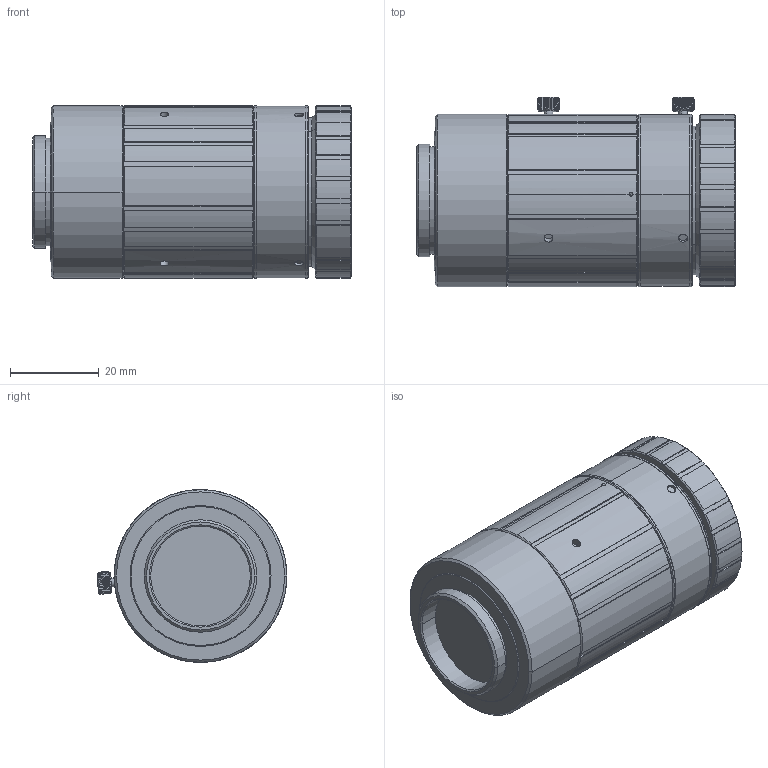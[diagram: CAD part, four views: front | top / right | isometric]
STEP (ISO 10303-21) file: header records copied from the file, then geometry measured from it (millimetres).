
FILE_DESCRIPTION(('CoCreate Modeling STEP Export'),'2;1');
FILE_NAME('CF50ZA-1S_outline.stp','2018-12-06T20:32:12',(''),(''),'CoCreate Modeling STEP processor for AP214 (Solid Model)','CoCreate Modeling 17.0 01-Apr-2010 (C) Parametric Technology GmbH','');
FILE_SCHEMA(('AUTOMOTIVE_DESIGN { 1 0 10303 214 1 1 1 1 }'));
Length unit declared in the file: millimetre
Products named in the file (2): CF50ZA-1S
Assembly tree (1 placements, depth 2):
  CF50ZA-1S
    CF50ZA-1S
Bounding box: 72 x 42.85 x 39 mm (x, y, z)
Volume: 70762.7 mm3; surface area: 16516.5 mm2
Topology: 1 solids, 2 shells, 404 faces, 1094 edges, 714 vertices
Faces by surface type: plane 223, cylinder 133, cone 44, revolution 2, sphere 2
Entity records: 14518 total; most frequent: CARTESIAN_POINT 4900, ORIENTED_EDGE 2180, DIRECTION 1658, EDGE_CURVE 1090, VERTEX_POINT 714, AXIS2_PLACEMENT_3D 571, VECTOR 515, LINE 515
